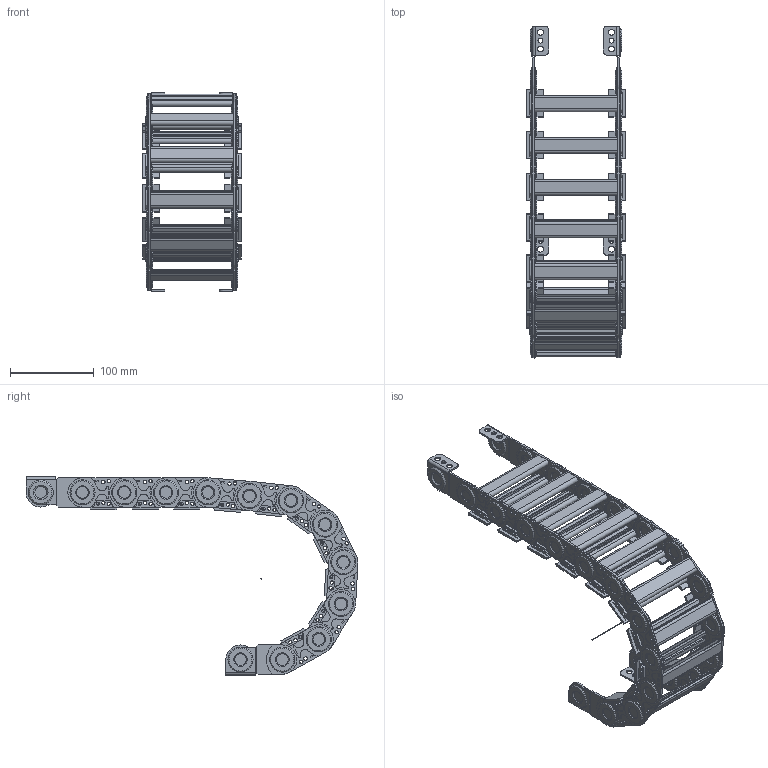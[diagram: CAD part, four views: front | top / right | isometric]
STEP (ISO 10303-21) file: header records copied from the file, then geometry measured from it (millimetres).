
FILE_DESCRIPTION((''),'2;1');
FILE_NAME('C:\Uebbing\TRACE PARTS\SLE\SLE 128\SLE 128 vereinfacht.stp','2013-05-24T12:49:42',('Uebbing'),(''),'Autodesk Inventor 10','Autodesk Inventor 10','');
FILE_SCHEMA(('AUTOMOTIVE_DESIGN { 1 0 10303 214 1 1 1 1 }'));
Length unit declared in the file: millimetre
Products named in the file (11): SLE 128 vereinfacht; Achse; SLE 128 Glied vereinfacht; SLE 120 Hauptlasche vereinfacht; SLE 120 Steg PARAMETRISCH; SLE 120 Gleiter vereinfacht; SLE 120 Anschluss N einfach vereinfacht; SLE 120 Anschlusslasche einfach gekröpft vereinfacht; SLE 120 Anschlusswinkel vereinfacht; SLE 120 Anschluss N doppelt vereinfacht; SLE 120 Anschlusslasche doppelt gekröpft vereinfacht
Assembly tree (27 placements, depth 3):
  SLE 128 vereinfacht
    Achse
    SLE 128 Glied vereinfacht  x10
      SLE 120 Hauptlasche vereinfacht
      SLE 120 Steg PARAMETRISCH
      SLE 120 Gleiter vereinfacht
    SLE 120 Anschluss N einfach vereinfacht
      SLE 120 Anschlusslasche einfach gekröpft vereinfacht  x2
      SLE 120 Anschlusswinkel vereinfacht  x2
    SLE 120 Anschluss N doppelt vereinfacht
      SLE 120 Anschlusswinkel vereinfacht  x2
      SLE 120 Anschlusslasche doppelt gekröpft vereinfacht  x2
Bounding box: 118.4 x 397.12 x 236.95 mm (x, y, z)
Volume: 379235.4 mm3; surface area: 428584.1 mm2
Topology: 69 solids, 69 shells, 2525 faces, 6810 edges, 4499 vertices
Faces by surface type: plane 1072, cylinder 879, bspline 514, cone 60
Full cylindrical faces by diameter (mm): 1 x1, 3.85 x20, 3.95 x20, 4 x40, 4.2 x40, 4.3 x40, 6 x4, 7 x8, 10.15 x4, 10.2 x2, 14 x24, 30 x26
Entity records: 6842 total; most frequent: CARTESIAN_POINT 1454, DIRECTION 1087, ORIENTED_EDGE 974, EDGE_CURVE 487, AXIS2_PLACEMENT_3D 389, VERTEX_POINT 340, VECTOR 309, LINE 309
